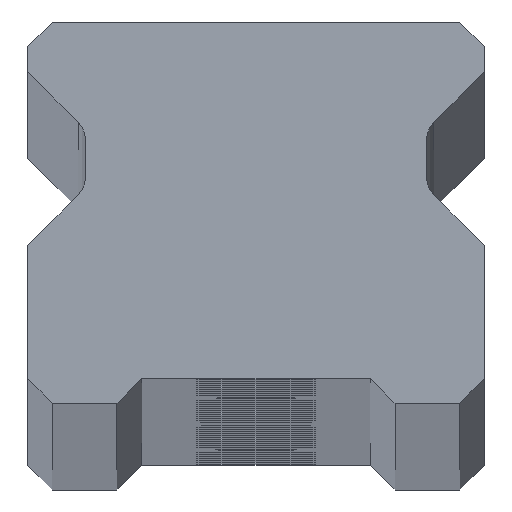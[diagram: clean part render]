
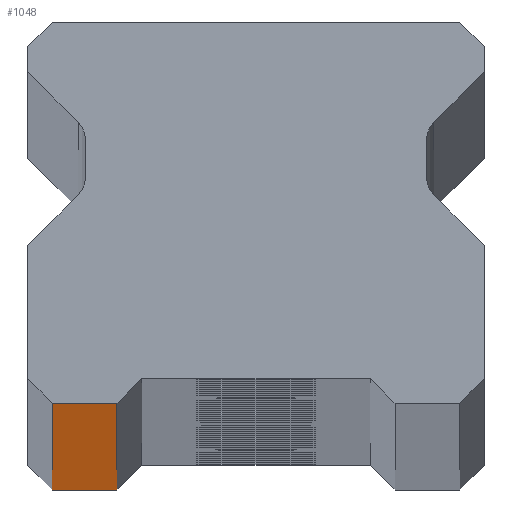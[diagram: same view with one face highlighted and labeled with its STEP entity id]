
A CAD part, top view. The second image highlights one B-rep face of the part: STEP entity #1048.
In plain terms, the highlighted planar face has unit normal (0, -1, 0).
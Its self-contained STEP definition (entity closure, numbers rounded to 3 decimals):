
#191 = ORIENTED_EDGE ( 'NONE', *, *, #6659, .T. ) ;
#278 = CARTESIAN_POINT ( 'NONE',  ( 11.5, 0., 1250. ) ) ;
#939 = VERTEX_POINT ( 'NONE', #8442 ) ;
#956 = CARTESIAN_POINT ( 'NONE',  ( -10.25, 0., 1250. ) ) ;
#1011 = DIRECTION ( 'NONE',  ( 0., 0., -1. ) ) ;
#1048 = ADVANCED_FACE ( 'NONE', ( #4207 ), #7265, .F. ) ;
#1214 = VERTEX_POINT ( 'NONE', #6179 ) ;
#1380 = CARTESIAN_POINT ( 'NONE',  ( -7., 0., -1250. ) ) ;
#1461 = VECTOR ( 'NONE', #8265, 1000. ) ;
#1677 = CARTESIAN_POINT ( 'NONE',  ( -7., 0., 1250. ) ) ;
#1779 = DIRECTION ( 'NONE',  ( 1., 0., 0. ) ) ;
#1802 = DIRECTION ( 'NONE',  ( 0., 0., 1. ) ) ;
#1960 = DIRECTION ( 'NONE',  ( 0., 1., 0. ) ) ;
#3205 = AXIS2_PLACEMENT_3D ( 'NONE', #8607, #1960, #6631 ) ;
#4207 = FACE_OUTER_BOUND ( 'NONE', #6731, .T. ) ;
#4274 = VECTOR ( 'NONE', #1779, 1000. ) ;
#4640 = EDGE_CURVE ( 'NONE', #1214, #6620, #5023, .T. ) ;
#4879 = LINE ( 'NONE', #956, #5178 ) ;
#5008 = LINE ( 'NONE', #5688, #4274 ) ;
#5023 = LINE ( 'NONE', #278, #1461 ) ;
#5045 = EDGE_CURVE ( 'NONE', #939, #7721, #5008, .T. ) ;
#5178 = VECTOR ( 'NONE', #1011, 1000. ) ;
#5184 = EDGE_CURVE ( 'NONE', #7721, #6620, #8341, .T. ) ;
#5311 = VECTOR ( 'NONE', #1802, 1000. ) ;
#5688 = CARTESIAN_POINT ( 'NONE',  ( 11.5, 0., -1250. ) ) ;
#5726 = ORIENTED_EDGE ( 'NONE', *, *, #4640, .F. ) ;
#6179 = CARTESIAN_POINT ( 'NONE',  ( -10.25, 0., 1250. ) ) ;
#6532 = ORIENTED_EDGE ( 'NONE', *, *, #5045, .T. ) ;
#6620 = VERTEX_POINT ( 'NONE', #1677 ) ;
#6631 = DIRECTION ( 'NONE',  ( -1., 0., 0. ) ) ;
#6659 = EDGE_CURVE ( 'NONE', #1214, #939, #4879, .T. ) ;
#6731 = EDGE_LOOP ( 'NONE', ( #6532, #8615, #5726, #191 ) ) ;
#7265 = PLANE ( 'NONE',  #3205 ) ;
#7721 = VERTEX_POINT ( 'NONE', #1380 ) ;
#7912 = CARTESIAN_POINT ( 'NONE',  ( -7., 0., -1250. ) ) ;
#8265 = DIRECTION ( 'NONE',  ( 1., 0., 0. ) ) ;
#8341 = LINE ( 'NONE', #7912, #5311 ) ;
#8442 = CARTESIAN_POINT ( 'NONE',  ( -10.25, 0., -1250. ) ) ;
#8607 = CARTESIAN_POINT ( 'NONE',  ( 11.5, 0., 1250. ) ) ;
#8615 = ORIENTED_EDGE ( 'NONE', *, *, #5184, .T. ) ;
